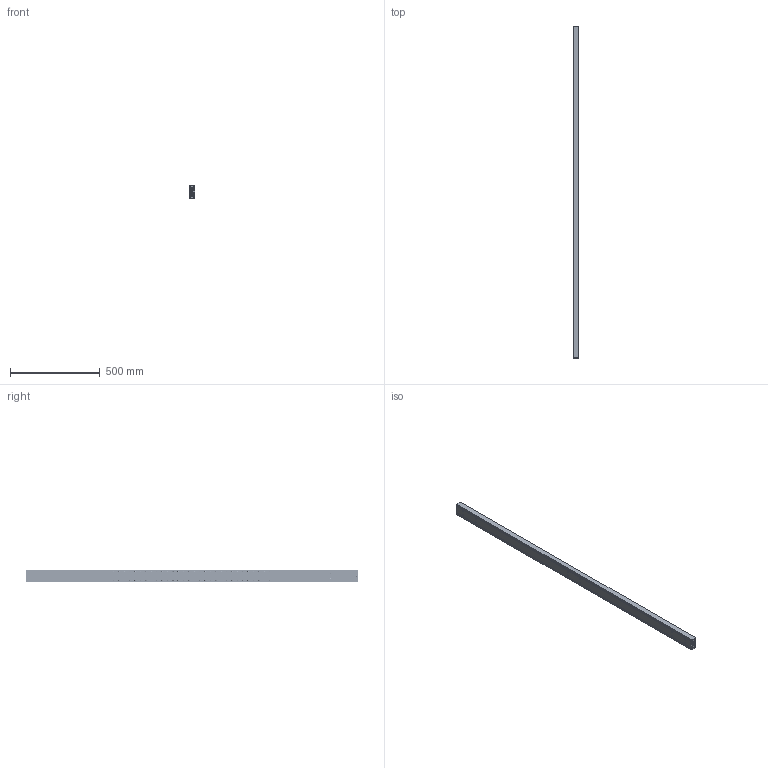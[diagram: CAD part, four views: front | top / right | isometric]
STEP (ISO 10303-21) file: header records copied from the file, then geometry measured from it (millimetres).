
FILE_DESCRIPTION(/* description */ (''),/* implementation_level */ '2;1');
FILE_NAME(/* name */ 'D:\Zeichnungen Schienen Komplett\MX-DTP70\MX-DTP70.185\MX-DTP70.185_eingefahren.step',/* time_stamp */ '2022-08-31T08:53:19+02:00',/* author */ ('zmile'),/* organization */ (''),/* preprocessor_version */ 'ST-DEVELOPER v16.13',/* originating_system */ 'AutoCAD Mechanical',/* authorisation */ '');
FILE_SCHEMA (('AUTOMOTIVE_DESIGN { 1 0 10303 214 3 1 1 }'));
Products named in the file (1): Product
Bounding box: 32 x 1850 x 70 mm (x, y, z)
Volume: 3290759 mm3; surface area: 1165843.8 mm2
Topology: 127 solids, 127 shells, 458 faces, 1312 edges, 872 vertices
Faces by surface type: cylinder 160, sphere 120, plane 86, bspline 86, torus 6
Full cylindrical faces by diameter (mm): 9 x120, 13 x2
Entity records: 197153 total; most frequent: CARTESIAN_POINT 186527, ORIENTED_EDGE 1884, DIRECTION 1862, EDGE_CURVE 942, EDGE_LOOP 882, VERTEX_POINT 870, AXIS2_PLACEMENT_3D 825, FACE_OUTER_BOUND 458
